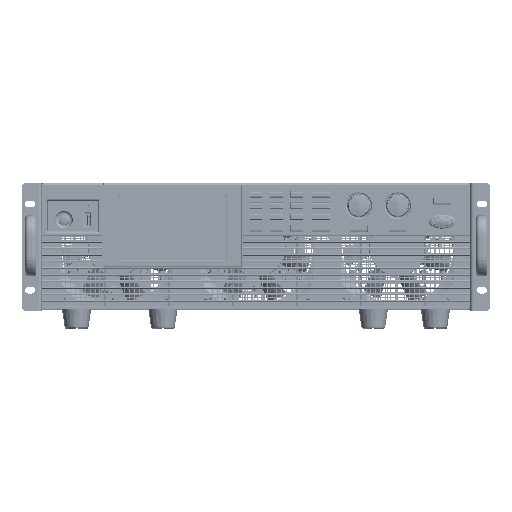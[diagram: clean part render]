
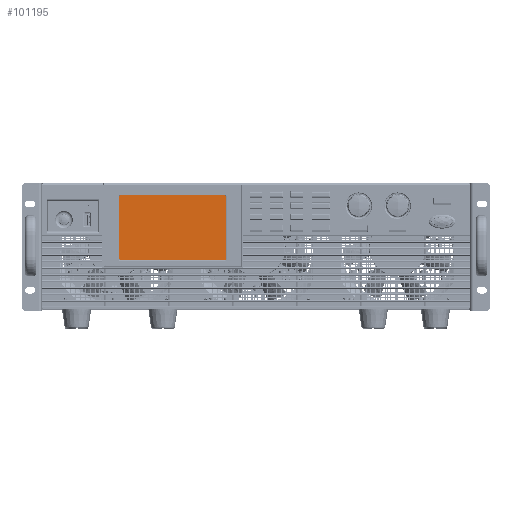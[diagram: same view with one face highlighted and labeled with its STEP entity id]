
A CAD part, top view. The second image highlights one B-rep face of the part: STEP entity #101195.
In plain terms, the highlighted planar face has unit normal (0, 0, 1).
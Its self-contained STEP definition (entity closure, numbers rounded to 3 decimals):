
#101080=DIRECTION('',(0.,1.,0.));
#101081=VECTOR('',#101080,71.5);
#101082=CARTESIAN_POINT('',(-59.25,-35.75,1.1));
#101083=LINE('',#101082,#101081);
#101084=DIRECTION('',(1.,0.,0.));
#101085=VECTOR('',#101084,118.5);
#101086=CARTESIAN_POINT('',(-59.25,35.75,1.1));
#101087=LINE('',#101086,#101085);
#101088=DIRECTION('',(0.,-1.,0.));
#101089=VECTOR('',#101088,71.5);
#101090=CARTESIAN_POINT('',(59.25,35.75,1.1));
#101091=LINE('',#101090,#101089);
#101092=DIRECTION('',(-1.,0.,0.));
#101093=VECTOR('',#101092,118.5);
#101094=CARTESIAN_POINT('',(59.25,-35.75,1.1));
#101095=LINE('',#101094,#101093);
#101104=CARTESIAN_POINT('',(-59.25,35.75,1.1));
#101105=VERTEX_POINT('',#101104);
#101106=CARTESIAN_POINT('',(-59.25,-35.75,1.1));
#101107=VERTEX_POINT('',#101106);
#101108=CARTESIAN_POINT('',(59.25,35.75,1.1));
#101109=VERTEX_POINT('',#101108);
#101110=CARTESIAN_POINT('',(59.25,-35.75,1.1));
#101111=VERTEX_POINT('',#101110);
#101184=CARTESIAN_POINT('',(0.,0.,1.1));
#101185=DIRECTION('',(0.,0.,1.));
#101186=DIRECTION('',(1.,0.,0.));
#101187=AXIS2_PLACEMENT_3D('',#101184,#101185,#101186);
#101188=PLANE('',#101187);
#101189=ORIENTED_EDGE('',*,*,#101136,.T.);
#101190=ORIENTED_EDGE('',*,*,#101151,.T.);
#101191=ORIENTED_EDGE('',*,*,#101165,.T.);
#101192=ORIENTED_EDGE('',*,*,#101178,.T.);
#101193=EDGE_LOOP('',(#101189,#101190,#101191,#101192));
#101194=FACE_OUTER_BOUND('',#101193,.F.);
#101195=ADVANCED_FACE('',(#101194),#101188,.T.);
#101136=EDGE_CURVE('',#101107,#101105,#101083,.T.);
#101151=EDGE_CURVE('',#101105,#101109,#101087,.T.);
#101165=EDGE_CURVE('',#101109,#101111,#101091,.T.);
#101178=EDGE_CURVE('',#101111,#101107,#101095,.T.);
